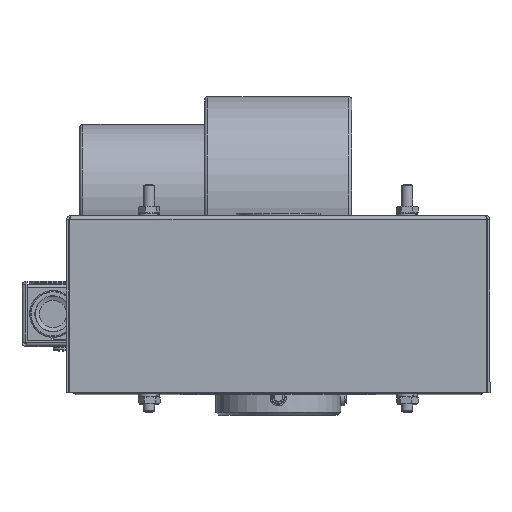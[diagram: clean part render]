
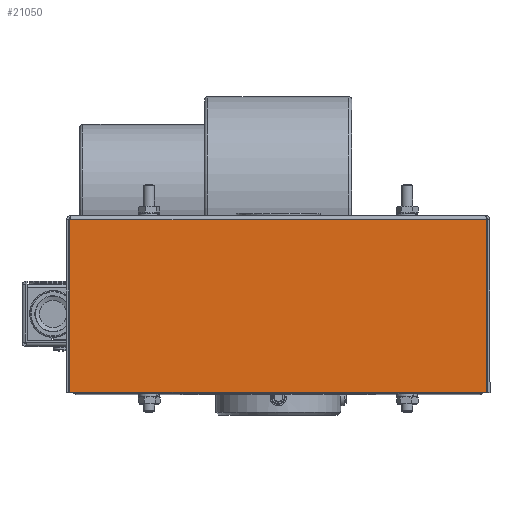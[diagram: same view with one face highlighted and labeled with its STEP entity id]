
A CAD part, top view. The second image highlights one B-rep face of the part: STEP entity #21050.
In plain terms, the highlighted planar face has unit normal (0, 0, 1).
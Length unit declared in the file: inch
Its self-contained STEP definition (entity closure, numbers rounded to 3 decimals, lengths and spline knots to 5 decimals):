
#1242=PLANE('',#23292);
#2233=LINE('',#37399,#3546);
#2235=LINE('',#37404,#3548);
#2238=LINE('',#37410,#3551);
#2239=LINE('',#37411,#3552);
#3546=VECTOR('',#28262,39.37008);
#3548=VECTOR('',#28268,39.37008);
#3551=VECTOR('',#28273,39.37008);
#3552=VECTOR('',#28274,39.37008);
#5079=FACE_OUTER_BOUND('',#6468,.T.);
#6468=EDGE_LOOP('',(#17221,#17222,#17223,#17224));
#9892=VERTEX_POINT('',#37269);
#9895=VERTEX_POINT('',#37373);
#9896=VERTEX_POINT('',#37403);
#9898=VERTEX_POINT('',#37409);
#12491=EDGE_CURVE('',#9895,#9892,#2233,.T.);
#12493=EDGE_CURVE('',#9892,#9896,#2235,.T.);
#12496=EDGE_CURVE('',#9895,#9898,#2238,.T.);
#12497=EDGE_CURVE('',#9898,#9896,#2239,.T.);
#17221=ORIENTED_EDGE('',*,*,#12493,.F.);
#17222=ORIENTED_EDGE('',*,*,#12491,.F.);
#17223=ORIENTED_EDGE('',*,*,#12496,.T.);
#17224=ORIENTED_EDGE('',*,*,#12497,.T.);
#21050=ADVANCED_FACE('',(#5079),#1242,.F.);
#23292=AXIS2_PLACEMENT_3D('',#37408,#28271,#28272);
#28262=DIRECTION('',(1.,0.,0.));
#28268=DIRECTION('',(0.,-1.,0.));
#28271=DIRECTION('center_axis',(0.,0.,-1.));
#28272=DIRECTION('ref_axis',(0.,1.,0.));
#28273=DIRECTION('',(0.,-1.,0.));
#28274=DIRECTION('',(1.,0.,0.));
#37269=CARTESIAN_POINT('',(4.79936,3.5325,4.875));
#37373=CARTESIAN_POINT('',(-4.79936,3.5325,4.875));
#37399=CARTESIAN_POINT('',(4.875,3.5325,4.875));
#37403=CARTESIAN_POINT('',(4.79936,-0.4322,4.875));
#37404=CARTESIAN_POINT('',(4.79936,3.5825,4.875));
#37408=CARTESIAN_POINT('Origin',(0.,3.6303,
4.875));
#37409=CARTESIAN_POINT('',(-4.79936,-0.4322,4.875));
#37410=CARTESIAN_POINT('',(-4.79936,3.6303,4.875));
#37411=CARTESIAN_POINT('',(0.,-0.4322,4.875));
